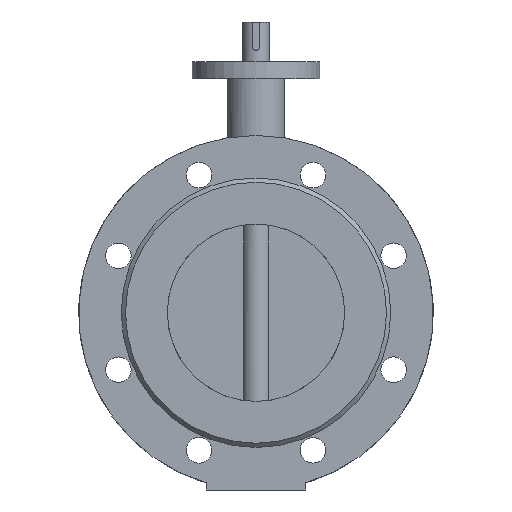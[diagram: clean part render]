
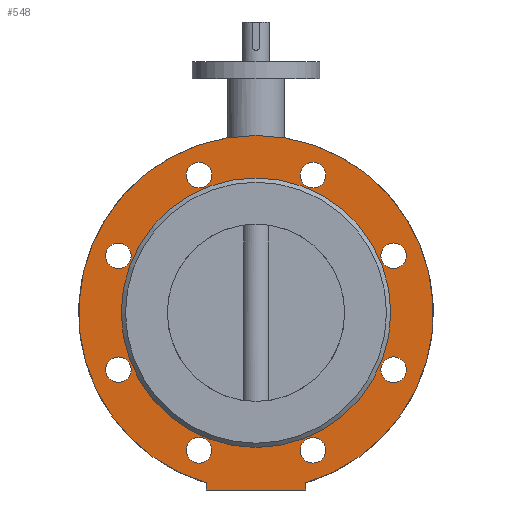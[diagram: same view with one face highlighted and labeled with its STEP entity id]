
A CAD part, front view. The second image highlights one B-rep face of the part: STEP entity #548.
In plain terms, the highlighted planar face has unit normal (0, -1, 0).
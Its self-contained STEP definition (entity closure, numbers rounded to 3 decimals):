
#548=ADVANCED_FACE('',(#1290,#1292,#1294,#1296,#1298,#1300,#1302,#1304,#1306,#1308),
#1310,.T.);
#1290=FACE_BOUND('',#1291,.T.);
#1291=EDGE_LOOP('',(#1802,#1803,#1804,#1805,#1806));
#1292=FACE_BOUND('',#1293,.T.);
#1293=EDGE_LOOP('',(#1807));
#1294=FACE_BOUND('',#1295,.T.);
#1295=EDGE_LOOP('',(#1808));
#1296=FACE_BOUND('',#1297,.T.);
#1297=EDGE_LOOP('',(#1809));
#1298=FACE_BOUND('',#1299,.T.);
#1299=EDGE_LOOP('',(#1810));
#1300=FACE_BOUND('',#1301,.T.);
#1301=EDGE_LOOP('',(#1811));
#1302=FACE_BOUND('',#1303,.T.);
#1303=EDGE_LOOP('',(#1812));
#1304=FACE_BOUND('',#1305,.T.);
#1305=EDGE_LOOP('',(#1813));
#1306=FACE_BOUND('',#1307,.T.);
#1307=EDGE_LOOP('',(#1814));
#1308=FACE_BOUND('',#1309,.T.);
#1309=EDGE_LOOP('',(#1815));
#1310=PLANE('',#1311);
#1311=AXIS2_PLACEMENT_3D('',#1312,#1313,#1314);
#1312=CARTESIAN_POINT('',(0.,-67.,0.));
#1313=DIRECTION('',(0.,-1.,0.));
#1314=DIRECTION('',(0.,0.,1.));
#1802=ORIENTED_EDGE('',*,*,#2029,.F.);
#1803=ORIENTED_EDGE('',*,*,#2068,.T.);
#1804=ORIENTED_EDGE('',*,*,#2069,.F.);
#1805=ORIENTED_EDGE('',*,*,#2061,.F.);
#1806=ORIENTED_EDGE('',*,*,#2030,.F.);
#1807=ORIENTED_EDGE('',*,*,#2034,.T.);
#1808=ORIENTED_EDGE('',*,*,#2035,.T.);
#1809=ORIENTED_EDGE('',*,*,#2036,.T.);
#1810=ORIENTED_EDGE('',*,*,#2037,.T.);
#1811=ORIENTED_EDGE('',*,*,#2038,.T.);
#1812=ORIENTED_EDGE('',*,*,#2039,.T.);
#1813=ORIENTED_EDGE('',*,*,#2040,.T.);
#1814=ORIENTED_EDGE('',*,*,#2070,.T.);
#1815=ORIENTED_EDGE('',*,*,#2041,.T.);
#2029=EDGE_CURVE('',#2292,#2294,#2295,.T.);
#2030=EDGE_CURVE('',#2294,#2296,#2297,.T.);
#2034=EDGE_CURVE('',#2301,#2301,#2302,.F.);
#2035=EDGE_CURVE('',#2303,#2303,#2304,.F.);
#2036=EDGE_CURVE('',#2305,#2305,#2306,.F.);
#2037=EDGE_CURVE('',#2307,#2307,#2308,.F.);
#2038=EDGE_CURVE('',#2309,#2309,#2310,.F.);
#2039=EDGE_CURVE('',#2311,#2311,#2312,.F.);
#2040=EDGE_CURVE('',#2313,#2313,#2314,.F.);
#2041=EDGE_CURVE('',#2315,#2315,#2316,.F.);
#2061=EDGE_CURVE('',#2296,#2355,#2356,.T.);
#2068=EDGE_CURVE('',#2292,#2364,#2366,.T.);
#2069=EDGE_CURVE('',#2355,#2364,#2367,.T.);
#2070=EDGE_CURVE('',#2368,#2368,#2369,.T.);
#2292=VERTEX_POINT('',#3210);
#2294=VERTEX_POINT('',#3214);
#2295=CIRCLE('',#3215,125.);
#2296=VERTEX_POINT('',#3219);
#2297=CIRCLE('',#3220,125.);
#2301=VERTEX_POINT('',#3233);
#2302=CIRCLE('',#3234,9.);
#2303=VERTEX_POINT('',#3238);
#2304=CIRCLE('',#3239,9.);
#2305=VERTEX_POINT('',#3243);
#2306=CIRCLE('',#3244,9.);
#2307=VERTEX_POINT('',#3248);
#2308=CIRCLE('',#3249,9.);
#2309=VERTEX_POINT('',#3253);
#2310=CIRCLE('',#3254,9.);
#2311=VERTEX_POINT('',#3258);
#2312=CIRCLE('',#3259,9.);
#2313=VERTEX_POINT('',#3263);
#2314=CIRCLE('',#3264,9.);
#2315=VERTEX_POINT('',#3268);
#2316=CIRCLE('',#3269,9.);
#2355=VERTEX_POINT('',#3366);
#2356=LINE('',#3367,#3368);
#2364=VERTEX_POINT('',#3387);
#2366=LINE('',#3391,#3392);
#2367=LINE('',#3394,#3395);
#2368=VERTEX_POINT('',#3397);
#2369=CIRCLE('',#3398,95.);
#3210=CARTESIAN_POINT('',(-35.,-67.,-120.));
#3214=CARTESIAN_POINT('',(0.,-67.,125.));
#3215=AXIS2_PLACEMENT_3D('',#3216,#3217,#3218);
#3216=CARTESIAN_POINT('',(0.,-67.,0.));
#3217=DIRECTION('',(0.,1.,0.));
#3218=DIRECTION('',(-0.28,0.,-0.96));
#3219=CARTESIAN_POINT('',(35.,-67.,-120.));
#3220=AXIS2_PLACEMENT_3D('',#3221,#3222,#3223);
#3221=CARTESIAN_POINT('',(0.,-67.,0.));
#3222=DIRECTION('',(0.,1.,0.));
#3223=DIRECTION('',(0.,0.,1.));
#3233=CARTESIAN_POINT('',(46.546,-67.,90.643));
#3234=AXIS2_PLACEMENT_3D('',#3235,#3236,#3237);
#3235=CARTESIAN_POINT('',(40.182,-67.,97.007));
#3236=DIRECTION('',(0.,-1.,0.));
#3237=DIRECTION('',(0.707,0.,-0.707));
#3238=CARTESIAN_POINT('',(97.007,-67.,31.182));
#3239=AXIS2_PLACEMENT_3D('',#3240,#3241,#3242);
#3240=CARTESIAN_POINT('',(97.007,-67.,40.182));
#3241=DIRECTION('',(0.,-1.,0.));
#3242=DIRECTION('',(0.,0.,-1.));
#3243=CARTESIAN_POINT('',(90.643,-67.,-46.546));
#3244=AXIS2_PLACEMENT_3D('',#3245,#3246,#3247);
#3245=CARTESIAN_POINT('',(97.007,-67.,-40.182));
#3246=DIRECTION('',(0.,-1.,0.));
#3247=DIRECTION('',(-0.707,0.,-0.707));
#3248=CARTESIAN_POINT('',(31.182,-67.,-97.007));
#3249=AXIS2_PLACEMENT_3D('',#3250,#3251,#3252);
#3250=CARTESIAN_POINT('',(40.182,-67.,-97.007));
#3251=DIRECTION('',(0.,-1.,0.));
#3252=DIRECTION('',(-1.,0.,0.));
#3253=CARTESIAN_POINT('',(-46.546,-67.,-90.643));
#3254=AXIS2_PLACEMENT_3D('',#3255,#3256,#3257);
#3255=CARTESIAN_POINT('',(-40.182,-67.,-97.007));
#3256=DIRECTION('',(0.,-1.,0.));
#3257=DIRECTION('',(-0.707,0.,0.707));
#3258=CARTESIAN_POINT('',(-97.007,-67.,-31.182));
#3259=AXIS2_PLACEMENT_3D('',#3260,#3261,#3262);
#3260=CARTESIAN_POINT('',(-97.007,-67.,-40.182));
#3261=DIRECTION('',(0.,-1.,0.));
#3262=DIRECTION('',(0.,0.,1.));
#3263=CARTESIAN_POINT('',(-90.643,-67.,46.546));
#3264=AXIS2_PLACEMENT_3D('',#3265,#3266,#3267);
#3265=CARTESIAN_POINT('',(-97.007,-67.,40.182));
#3266=DIRECTION('',(0.,-1.,0.));
#3267=DIRECTION('',(0.707,0.,0.707));
#3268=CARTESIAN_POINT('',(-31.182,-67.,97.007));
#3269=AXIS2_PLACEMENT_3D('',#3270,#3271,#3272);
#3270=CARTESIAN_POINT('',(-40.182,-67.,97.007));
#3271=DIRECTION('',(0.,-1.,0.));
#3272=DIRECTION('',(1.,0.,0.));
#3366=CARTESIAN_POINT('',(35.,-67.,-125.));
#3367=CARTESIAN_POINT('',(35.,-67.,-120.));
#3368=VECTOR('',#3369,1.);
#3369=DIRECTION('',(0.,0.,-1.));
#3387=CARTESIAN_POINT('',(-35.,-67.,-125.));
#3391=CARTESIAN_POINT('',(-35.,-67.,-120.));
#3392=VECTOR('',#3393,1.);
#3393=DIRECTION('',(0.,0.,-1.));
#3394=CARTESIAN_POINT('',(35.,-67.,-125.));
#3395=VECTOR('',#3396,1.);
#3396=DIRECTION('',(-1.,0.,0.));
#3397=CARTESIAN_POINT('',(0.,-67.,95.));
#3398=AXIS2_PLACEMENT_3D('',#3399,#3400,#3401);
#3399=CARTESIAN_POINT('',(0.,-67.,0.));
#3400=DIRECTION('',(0.,1.,0.));
#3401=DIRECTION('',(0.,0.,1.));
